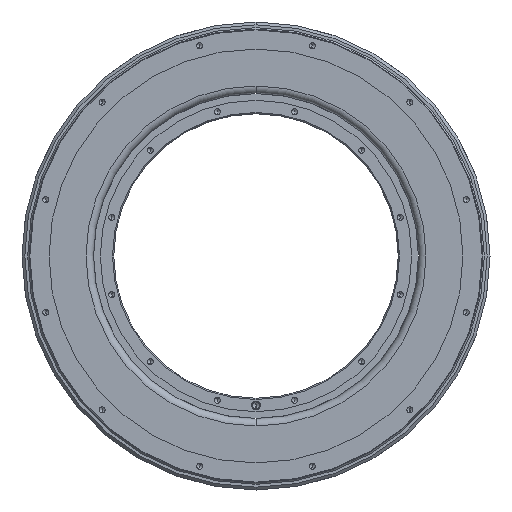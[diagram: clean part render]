
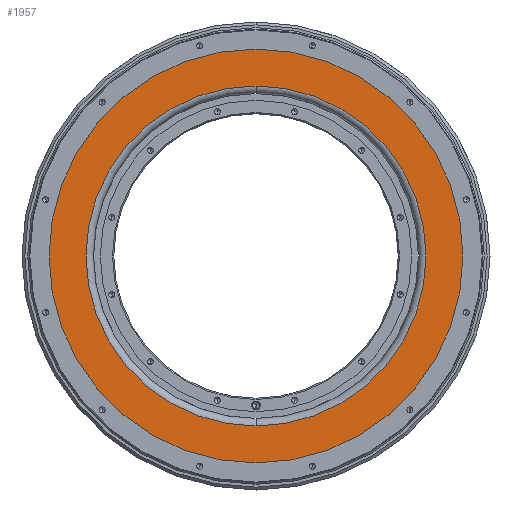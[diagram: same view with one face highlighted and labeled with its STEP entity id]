
A CAD part, front view. The second image highlights one B-rep face of the part: STEP entity #1957.
In plain terms, the highlighted planar face has unit normal (0, -1, 0).
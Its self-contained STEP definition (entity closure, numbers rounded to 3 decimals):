
#336 = ORIENTED_EDGE ( 'NONE', *, *, #704, .T. ) ;
#407 = CARTESIAN_POINT ( 'NONE',  ( 0., 3., -145.5 ) ) ;
#565 = EDGE_CURVE ( 'NONE', #3709, #1656, #3265, .T. ) ;
#704 = EDGE_CURVE ( 'NONE', #1656, #3709, #5462, .T. ) ;
#763 = VERTEX_POINT ( 'NONE', #8614 ) ;
#1194 = AXIS2_PLACEMENT_3D ( 'NONE', #8530, #1433, #6372 ) ;
#1433 = DIRECTION ( 'NONE',  ( 0., 1., 0. ) ) ;
#1583 = CARTESIAN_POINT ( 'NONE',  ( 0., 3., 0. ) ) ;
#1656 = VERTEX_POINT ( 'NONE', #4624 ) ;
#1680 = AXIS2_PLACEMENT_3D ( 'NONE', #6848, #2690, #1936 ) ;
#1936 = DIRECTION ( 'NONE',  ( 0., 0., -1. ) ) ;
#1957 = ADVANCED_FACE ( 'NONE', ( #2691, #5453 ), #7722, .F. ) ;
#2017 = DIRECTION ( 'NONE',  ( 0., 1., 0. ) ) ;
#2633 = AXIS2_PLACEMENT_3D ( 'NONE', #1583, #7941, #7874 ) ;
#2690 = DIRECTION ( 'NONE',  ( 0., -1., 0. ) ) ;
#2691 = FACE_BOUND ( 'NONE', #7584, .T. ) ;
#2899 = ORIENTED_EDGE ( 'NONE', *, *, #5707, .T. ) ;
#3265 = CIRCLE ( 'NONE', #1680, 145.5 ) ;
#3333 = CARTESIAN_POINT ( 'NONE',  ( 0., 3., -119.5 ) ) ;
#3525 = DIRECTION ( 'NONE',  ( 0., 0., 1. ) ) ;
#3620 = CARTESIAN_POINT ( 'NONE',  ( 0., 3., 0. ) ) ;
#3709 = VERTEX_POINT ( 'NONE', #407 ) ;
#4041 = CIRCLE ( 'NONE', #6174, 119.5 ) ;
#4624 = CARTESIAN_POINT ( 'NONE',  ( 0., 3., 145.5 ) ) ;
#4924 = AXIS2_PLACEMENT_3D ( 'NONE', #9091, #2017, #3525 ) ;
#5325 = VERTEX_POINT ( 'NONE', #3333 ) ;
#5453 = FACE_OUTER_BOUND ( 'NONE', #6729, .T. ) ;
#5462 = CIRCLE ( 'NONE', #2633, 145.5 ) ;
#5707 = EDGE_CURVE ( 'NONE', #763, #5325, #6024, .T. ) ;
#6024 = CIRCLE ( 'NONE', #1194, 119.5 ) ;
#6174 = AXIS2_PLACEMENT_3D ( 'NONE', #3620, #7139, #8524 ) ;
#6372 = DIRECTION ( 'NONE',  ( 0., 0., 1. ) ) ;
#6729 = EDGE_LOOP ( 'NONE', ( #8469, #336 ) ) ;
#6848 = CARTESIAN_POINT ( 'NONE',  ( 0., 3., 0. ) ) ;
#6867 = ORIENTED_EDGE ( 'NONE', *, *, #9030, .T. ) ;
#7139 = DIRECTION ( 'NONE',  ( 0., 1., 0. ) ) ;
#7584 = EDGE_LOOP ( 'NONE', ( #2899, #6867 ) ) ;
#7722 = PLANE ( 'NONE',  #4924 ) ;
#7874 = DIRECTION ( 'NONE',  ( 0., 0., -1. ) ) ;
#7941 = DIRECTION ( 'NONE',  ( 0., -1., 0. ) ) ;
#8469 = ORIENTED_EDGE ( 'NONE', *, *, #565, .T. ) ;
#8524 = DIRECTION ( 'NONE',  ( 0., 0., 1. ) ) ;
#8530 = CARTESIAN_POINT ( 'NONE',  ( 0., 3., 0. ) ) ;
#8614 = CARTESIAN_POINT ( 'NONE',  ( 0., 3., 119.5 ) ) ;
#9030 = EDGE_CURVE ( 'NONE', #5325, #763, #4041, .T. ) ;
#9091 = CARTESIAN_POINT ( 'NONE',  ( -145.5, 3., 0. ) ) ;
